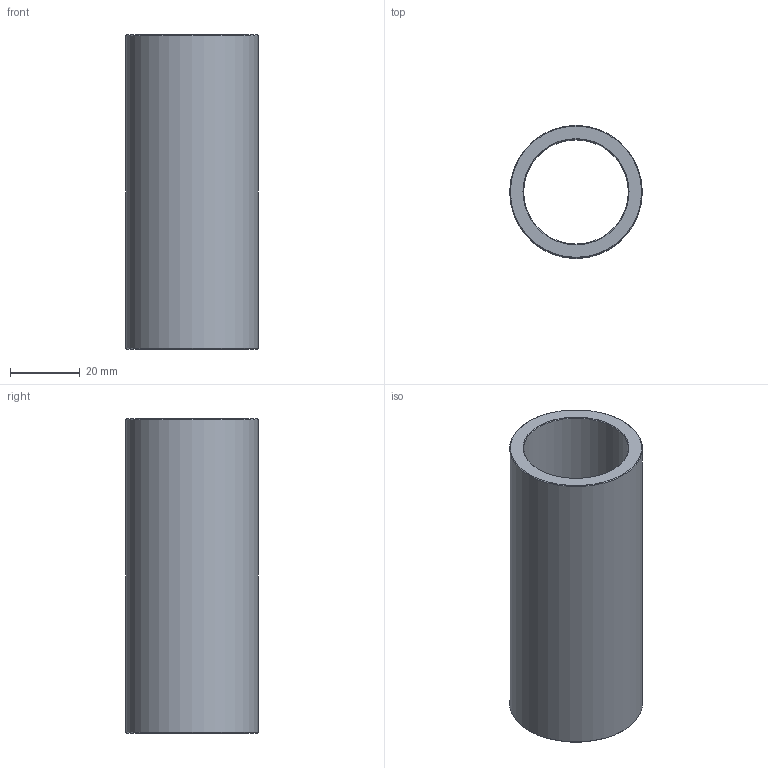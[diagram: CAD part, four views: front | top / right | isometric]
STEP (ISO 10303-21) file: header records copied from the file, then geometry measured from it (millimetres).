
FILE_DESCRIPTION(('STEP AP203'),'1');
FILE_NAME('C:/Users/Rodrigo/Desktop/GA4.030.090-1.step','2016-11-07T16:55:51',(' '),(' '),'Spatial InterOp 3D',' ',' ');
FILE_SCHEMA(('CONFIG_CONTROL_DESIGN'));
Length unit declared in the file: millimetre
Products named in the file (1): 1
Bounding box: 38 x 38 x 90 mm (x, y, z)
Volume: 38444.5 mm3; surface area: 20031 mm2
Topology: 1 solids, 1 shells, 8 faces, 14 edges, 8 vertices
Faces by surface type: cone 4, cylinder 2, plane 2
Full cylindrical faces by diameter (mm): 30 x1, 38 x1
Entity records: 212 total; most frequent: DIRECTION 34, CARTESIAN_POINT 25, AXIS2_PLACEMENT_3D 17, EDGE_LOOP 16, ORIENTED_EDGE 16, FACE_OUTER_BOUND 10, ADVANCED_FACE 8, EDGE_CURVE 8
